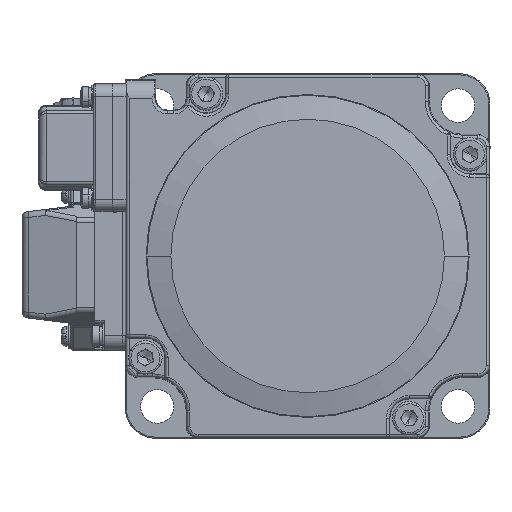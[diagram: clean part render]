
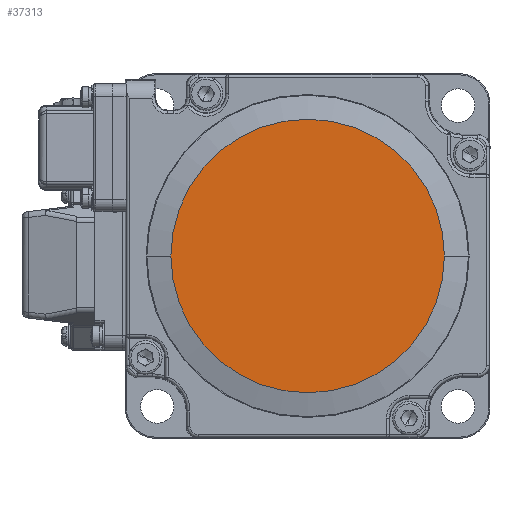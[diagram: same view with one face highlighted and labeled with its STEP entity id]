
A CAD part, left-side view. The second image highlights one B-rep face of the part: STEP entity #37313.
In plain terms, the highlighted planar face has unit normal (-1, 0, 0).
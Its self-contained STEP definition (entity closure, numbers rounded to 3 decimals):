
#897 = DIRECTION ( 'NONE',  ( 0., 1., 0. ) ) ;
#1579 = VERTEX_POINT ( 'NONE', #48775 ) ;
#5708 = CIRCLE ( 'NONE', #15846, 22.5 ) ;
#10481 = DIRECTION ( 'NONE',  ( 1., 0., 0. ) ) ;
#15244 = CARTESIAN_POINT ( 'NONE',  ( -106.5, 22., 26. ) ) ;
#15846 = AXIS2_PLACEMENT_3D ( 'NONE', #21916, #17178, #21283 ) ;
#17178 = DIRECTION ( 'NONE',  ( -1., 0., 0. ) ) ;
#17290 = DIRECTION ( 'NONE',  ( 0., -1., 0. ) ) ;
#21283 = DIRECTION ( 'NONE',  ( 0., -1., 0. ) ) ;
#21916 = CARTESIAN_POINT ( 'NONE',  ( -106.5, 0., 0. ) ) ;
#22603 = CARTESIAN_POINT ( 'NONE',  ( -106.5, 22.5, 0. ) ) ;
#24084 = PLANE ( 'NONE',  #38277 ) ;
#27101 = CIRCLE ( 'NONE', #58652, 22.5 ) ;
#32404 = ORIENTED_EDGE ( 'NONE', *, *, #37695, .T. ) ;
#33350 = ORIENTED_EDGE ( 'NONE', *, *, #46026, .T. ) ;
#37313 = ADVANCED_FACE ( 'NONE', ( #39481 ), #24084, .F. ) ;
#37695 = EDGE_CURVE ( 'NONE', #1579, #49556, #27101, .T. ) ;
#38277 = AXIS2_PLACEMENT_3D ( 'NONE', #15244, #10481, #897 ) ;
#39481 = FACE_OUTER_BOUND ( 'NONE', #48103, .T. ) ;
#46026 = EDGE_CURVE ( 'NONE', #49556, #1579, #5708, .T. ) ;
#48103 = EDGE_LOOP ( 'NONE', ( #32404, #33350 ) ) ;
#48775 = CARTESIAN_POINT ( 'NONE',  ( -106.5, -22.5, 0. ) ) ;
#49556 = VERTEX_POINT ( 'NONE', #22603 ) ;
#51119 = DIRECTION ( 'NONE',  ( -1., 0., 0. ) ) ;
#56194 = CARTESIAN_POINT ( 'NONE',  ( -106.5, 0., 0. ) ) ;
#58652 = AXIS2_PLACEMENT_3D ( 'NONE', #56194, #51119, #17290 ) ;
